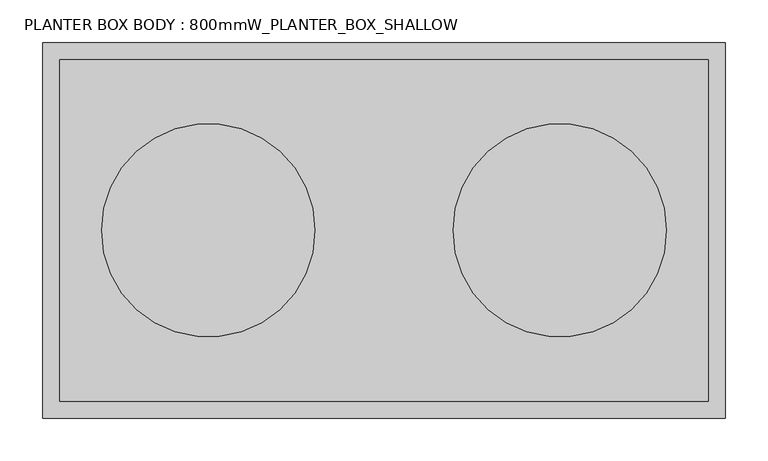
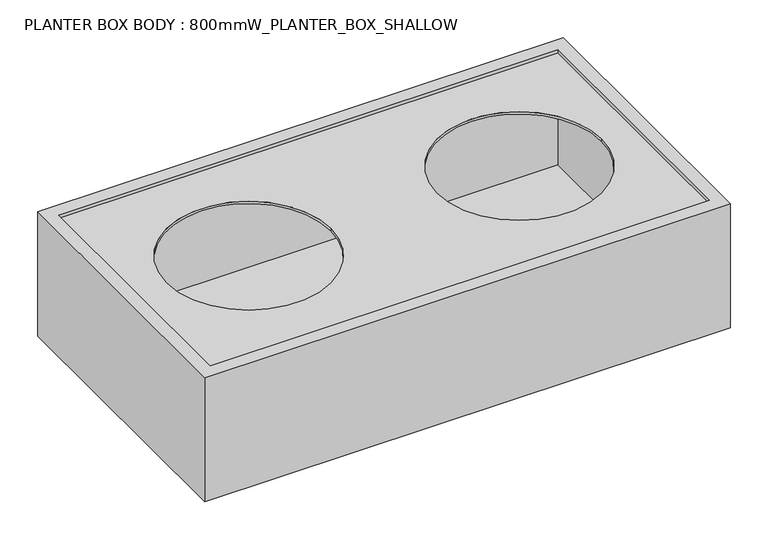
"""IFC4 building model written with IfcOpenShell, lengths in millimetres: furniture geometry, PLANTER BOX BODY : 800mmW_PLANTER_BOX_SHALLOW."""

from ifc_helpers import new_model, si_unit, point, frame, frame_2d, origin, place, context, project, spatial, polyline, circle_curve, trimmed, segment, composite_curve, outline, extrude, source, transform, mapped, element, save


def planter_box_body_800mmw_planter_box_shallow_f3f734fd(model_context):
    return source(origin(), model_context, "Body", "SweptSolid", [
        extrude(outline(polyline([(400.0, 220.0), (400.0, -220.0), (-400.0, -220.0), (-400.0, 220.0), (400.0, 220.0)]), holes=[polyline([(-380.0, 200.0), (-380.0, -200.0), (380.0, -200.0), (380.0, 200.0), (-380.0, 200.0)])]), frame((0.0, 0.0, 195.0), z_axis=(0.0, 0.0, 1.0), x_axis=(1.0, 0.0, 0.0)), (0.0, 0.0, 1.0), 200.0),
        extrude(outline(polyline([(380.0, 200.0), (380.0, -200.0), (-380.0, -200.0), (-380.0, 200.0), (380.0, 200.0)])), frame((0.0, 0.0, 195.0), z_axis=(0.0, 0.0, 1.0), x_axis=(1.0, 0.0, 0.0)), (0.0, 0.0, 1.0), 15.0),
        extrude(outline(polyline([(380.0, 200.0), (380.0, -200.0), (-380.0, -200.0), (-380.0, 200.0), (380.0, 200.0)]), holes=[composite_curve([segment(trimmed(circle_curve(frame_2d((-206.0, 0.0)), 125.0), [point((-331.0, 0.0))], [point((-81.0, 0.0))], True, "CARTESIAN"), True, "CONTINUOUS"), segment(trimmed(circle_curve(frame_2d((-206.0, 0.0)), 125.0), [point((-81.0, 0.0))], [point((-331.0, 0.0))], True, "CARTESIAN"), True, "CONTINUOUS")], self_intersect=False), composite_curve([segment(trimmed(circle_curve(frame_2d((206.0, 0.0)), 125.0), [point((81.0, 0.0))], [point((331.0, 0.0))], True, "CARTESIAN"), True, "CONTINUOUS"), segment(trimmed(circle_curve(frame_2d((206.0, 0.0)), 125.0), [point((331.0, 0.0))], [point((81.0, 0.0))], True, "CARTESIAN"), True, "CONTINUOUS")], self_intersect=False)]), frame((0.0, 0.0, 386.4363245), z_axis=(0.0, 0.0, 1.0), x_axis=(1.0, 0.0, 0.0)), (0.0, 0.0, 1.0), 3.5636755),
    ])


if __name__ == "__main__":
    model = new_model("IFC4")
    model_context = context("Model", 3, world=origin())
    ifc_project = project(units=[si_unit("LENGTHUNIT", "METRE", prefix="MILLI")], contexts=[model_context])
    site = spatial("IfcSite", under=ifc_project)
    building = spatial("IfcBuilding", under=site)
    placement = place(None, origin())
    planter_box_body_800mmw_planter_box_shallow_shape = planter_box_body_800mmw_planter_box_shallow_f3f734fd(model_context)
    element("IfcFurniture", 1, ObjectType="PLANTER BOX BODY : 800mmW_PLANTER_BOX_SHALLOW", at=placement, inside=building, context=model_context, shape_type="MappedRepresentation", body=[
        mapped(planter_box_body_800mmw_planter_box_shallow_shape, transform((0.0, 0.0, 0.0), x_axis=(1.0, 0.0, 0.0), y_axis=(0.0, 1.0, 0.0), z_axis=(0.0, 0.0, 1.0))),
    ])
    save(model, "model.ifc")
